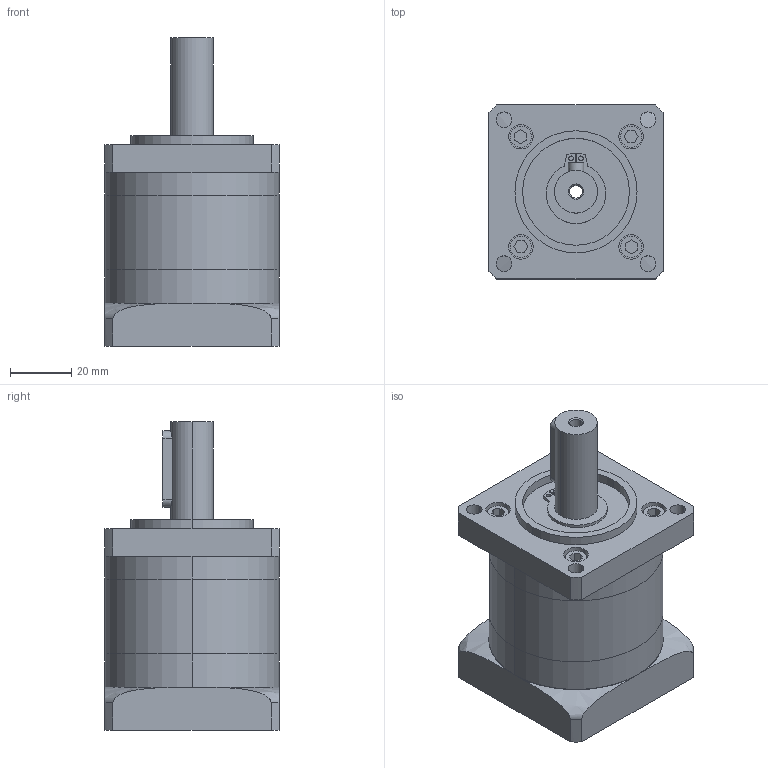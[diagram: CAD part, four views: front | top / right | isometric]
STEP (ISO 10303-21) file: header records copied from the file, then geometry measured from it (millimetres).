
FILE_DESCRIPTION (( 'STEP AP214' ), '1' );
FILE_NAME ('DLF57-L1-( )-J14-BJ-GC.step', '2020-11-17T06:00:53', ( 'Moofasta' ), ( '' ), 'SwSTEP 2.0', 'SolidWorks 2020', '' );
FILE_SCHEMA (( 'AUTOMOTIVE_DESIGN' ));
Length unit declared in the file: millimetre
Products named in the file (1): DLF57-L1-( )-J14-BJ-GC
Bounding box: 57 x 57 x 101 mm (x, y, z)
Volume: 179968.2 mm3; surface area: 44861.7 mm2
Topology: 5 solids, 5 shells, 234 faces, 551 edges, 358 vertices
Faces by surface type: plane 117, cylinder 103, cone 10, bspline 4
Entity records: 8042 total; most frequent: CARTESIAN_POINT 1939, DIRECTION 1185, ORIENTED_EDGE 1086, EDGE_CURVE 543, AXIS2_PLACEMENT_3D 432, VERTEX_POINT 358, LINE 321, VECTOR 321
